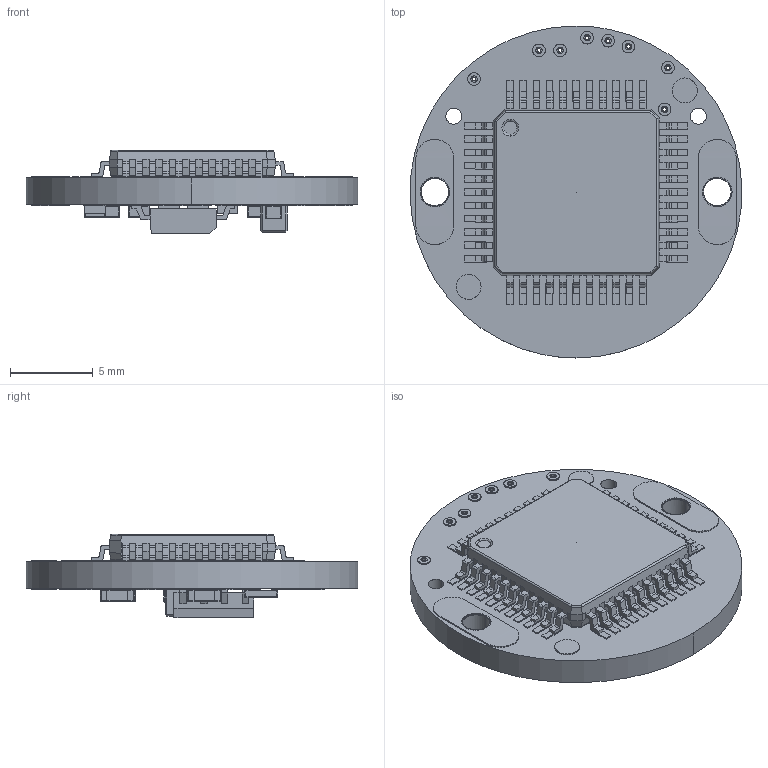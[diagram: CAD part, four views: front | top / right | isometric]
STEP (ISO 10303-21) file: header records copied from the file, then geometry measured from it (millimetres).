
FILE_DESCRIPTION (( 'STEP AP214' ), '1' );
FILE_NAME ('Rmb20s2_MODM117.STEP', '2017-07-14T10:52:42', ( '' ), ( '' ), 'SwSTEP 2.0', 'SolidWorks 2016', '' );
FILE_SCHEMA (( 'AUTOMOTIVE_DESIGN' ));
Length unit declared in the file: millimetre
Products named in the file (1): Rmb20s2_MODM117
Bounding box: 19.99 x 20 x 5.05 mm (x, y, z)
Volume: 715.5 mm3; surface area: 1683.5 mm2
Topology: 165 solids, 165 shells, 2267 faces, 5420 edges, 3496 vertices
Faces by surface type: plane 1551, bspline 520, cylinder 194, torus 2
Entity records: 115417 total; most frequent: CARTESIAN_POINT 41330, ORIENTED_EDGE 10776, DIRECTION 7424, EDGE_CURVE 5388, VERTEX_POINT 3496, VECTOR 3396, LINE 3396, EDGE_LOOP 2474
